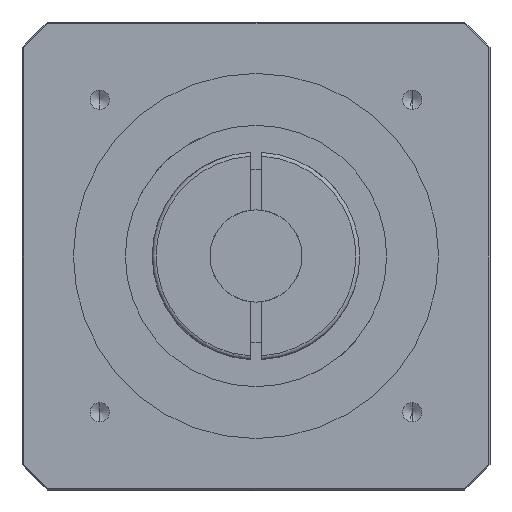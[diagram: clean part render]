
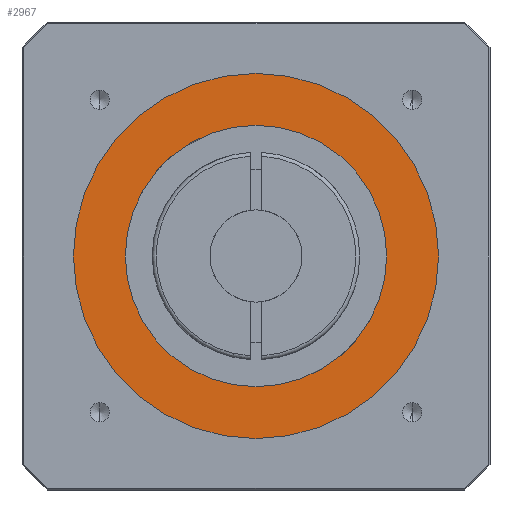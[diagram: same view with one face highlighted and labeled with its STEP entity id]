
A CAD part, front view. The second image highlights one B-rep face of the part: STEP entity #2967.
In plain terms, the highlighted planar face has unit normal (0, -1, 0).
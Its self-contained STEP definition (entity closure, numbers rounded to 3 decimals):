
#67 = VERTEX_POINT ( 'NONE', #1847 ) ;
#68 = VERTEX_POINT ( 'NONE', #1845 ) ;
#152 = VERTEX_POINT ( 'NONE', #1604 ) ;
#153 = VERTEX_POINT ( 'NONE', #1530 ) ;
#456 = ORIENTED_EDGE ( 'NONE', *, *, #4057, .F. ) ;
#457 = ORIENTED_EDGE ( 'NONE', *, *, #2502, .F. ) ;
#458 = ORIENTED_EDGE ( 'NONE', *, *, #4058, .T. ) ;
#459 = ORIENTED_EDGE ( 'NONE', *, *, #2574, .T. ) ;
#929 = CIRCLE ( 'NONE', #3032, 34. ) ;
#1033 = CIRCLE ( 'NONE', #3060, 47.5 ) ;
#1530 = CARTESIAN_POINT ( 'NONE',  ( 0., -119.5, -34. ) ) ;
#1604 = CARTESIAN_POINT ( 'NONE',  ( 0., -119.5, 34. ) ) ;
#1845 = CARTESIAN_POINT ( 'NONE',  ( 0., -119.5, -47.5 ) ) ;
#1847 = CARTESIAN_POINT ( 'NONE',  ( 0., -119.5, 47.5 ) ) ;
#1958 = CARTESIAN_POINT ( 'NONE',  ( 0., -119.5, 0. ) ) ;
#1959 = DIRECTION ( 'NONE',  ( 0., -1., 0. ) ) ;
#1960 = DIRECTION ( 'NONE',  ( 0., 0., -1. ) ) ;
#2346 = CARTESIAN_POINT ( 'NONE',  ( 0., -119.5, 0. ) ) ;
#2347 = DIRECTION ( 'NONE',  ( 0., -1., 0. ) ) ;
#2348 = DIRECTION ( 'NONE',  ( 0., 0., -1. ) ) ;
#2502 = EDGE_CURVE ( 'NONE', #152, #153, #929, .T. ) ;
#2574 = EDGE_CURVE ( 'NONE', #67, #68, #1033, .T. ) ;
#2818 = EDGE_LOOP ( 'NONE', ( #458, #459 ) ) ;
#2881 = EDGE_LOOP ( 'NONE', ( #456, #457 ) ) ;
#2967 = ADVANCED_FACE ( 'NONE', ( #3238, #3240 ), #4572, .T. ) ;
#3032 = AXIS2_PLACEMENT_3D ( 'NONE', #1958, #1959, #1960 ) ;
#3060 = AXIS2_PLACEMENT_3D ( 'NONE', #2346, #2347, #2348 ) ;
#3130 = AXIS2_PLACEMENT_3D ( 'NONE', #4569, #4574, #4575 ) ;
#3159 = AXIS2_PLACEMENT_3D ( 'NONE', #4693, #4694, #4695 ) ;
#3160 = AXIS2_PLACEMENT_3D ( 'NONE', #4698, #4699, #4700 ) ;
#3238 = FACE_BOUND ( 'NONE', #2881, .T. ) ;
#3240 = FACE_OUTER_BOUND ( 'NONE', #2818, .T. ) ;
#3278 = CIRCLE ( 'NONE', #3160, 47.5 ) ;
#3284 = CIRCLE ( 'NONE', #3159, 34. ) ;
#4057 = EDGE_CURVE ( 'NONE', #153, #152, #3284, .T. ) ;
#4058 = EDGE_CURVE ( 'NONE', #68, #67, #3278, .T. ) ;
#4569 = CARTESIAN_POINT ( 'NONE',  ( 0., -119.5, 0. ) ) ;
#4572 = PLANE ( 'NONE',  #3130 ) ;
#4574 = DIRECTION ( 'NONE',  ( 0., -1., 0. ) ) ;
#4575 = DIRECTION ( 'NONE',  ( 0., 0., -1. ) ) ;
#4693 = CARTESIAN_POINT ( 'NONE',  ( 0., -119.5, 0. ) ) ;
#4694 = DIRECTION ( 'NONE',  ( 0., -1., 0. ) ) ;
#4695 = DIRECTION ( 'NONE',  ( 0., 0., -1. ) ) ;
#4698 = CARTESIAN_POINT ( 'NONE',  ( 0., -119.5, 0. ) ) ;
#4699 = DIRECTION ( 'NONE',  ( 0., -1., 0. ) ) ;
#4700 = DIRECTION ( 'NONE',  ( 0., 0., -1. ) ) ;
